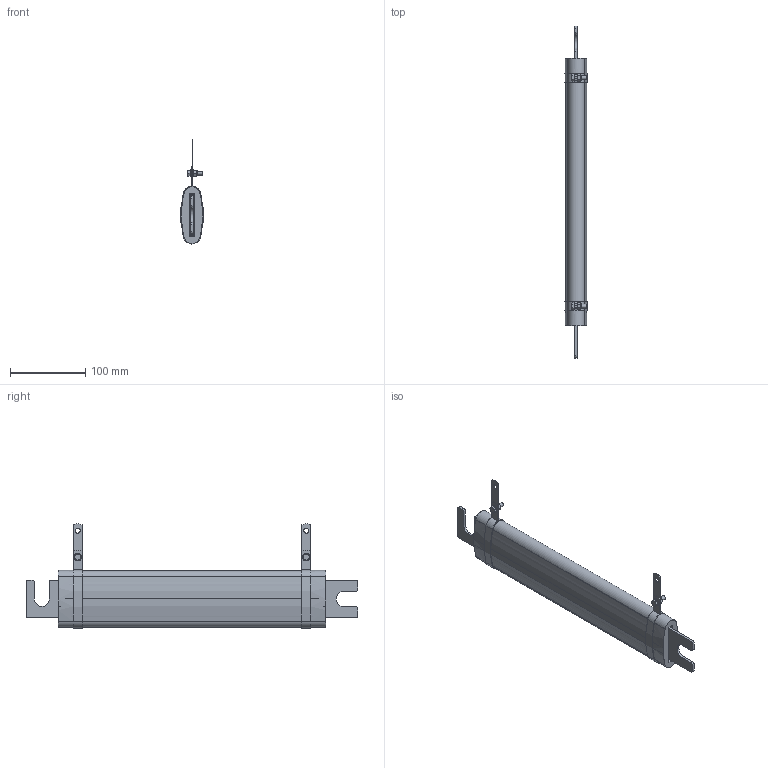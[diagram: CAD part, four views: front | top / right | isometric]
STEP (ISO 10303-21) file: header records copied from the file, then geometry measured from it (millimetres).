
FILE_DESCRIPTION(/* description */ (''),/* implementation_level */ '2;1');
FILE_NAME(/* name */ 'C:\_Vault\Dati\CATALOGO\RCE\RCE 300-1800\CE01K0.stp',/* time_stamp */ '2014-01-22T16:05:40+01:00',/* author */ ('stefano'),/* organization */ (''),/* preprocessor_version */ 'ST-DEVELOPER v15.2',/* originating_system */ 'Autodesk Inventor 2014',/* authorisation */ '');
FILE_SCHEMA (('AUTOMOTIVE_DESIGN { 1 0 10303 214 3 1 1 }'));
Length unit declared in the file: millimetre
Products named in the file (1): CE01K0
Bounding box: 29.17 x 440 x 137.95 mm (x, y, z)
Volume: 536764.8 mm3; surface area: 231657.4 mm2
Topology: 5 solids, 7 shells, 262 faces, 648 edges, 424 vertices
Faces by surface type: plane 140, cylinder 102, cone 20
Full cylindrical faces by diameter (mm): 3 x2, 5 x4, 5.3 x4, 6.5 x6, 6.88 x2, 10 x4
Entity records: 7951 total; most frequent: CARTESIAN_POINT 1393, DIRECTION 1344, ORIENTED_EDGE 1256, EDGE_CURVE 616, AXIS2_PLACEMENT_3D 513, VERTEX_POINT 418, EDGE_LOOP 336, LINE 318
